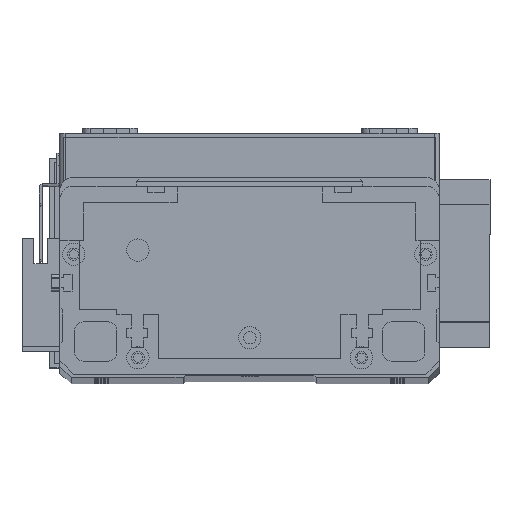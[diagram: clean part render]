
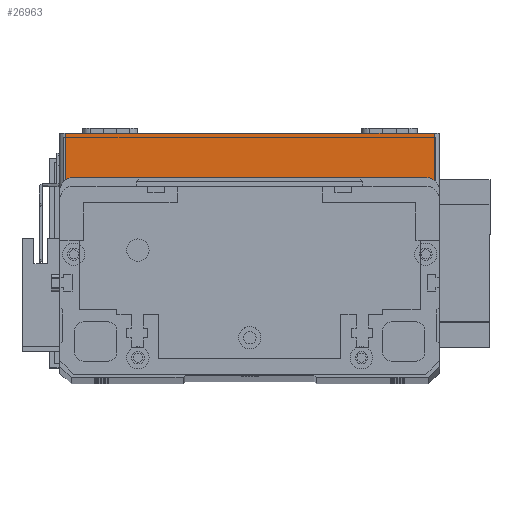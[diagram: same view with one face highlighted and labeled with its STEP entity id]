
A CAD part, top view. The second image highlights one B-rep face of the part: STEP entity #26963.
In plain terms, the highlighted planar face has unit normal (0, 0, 1) as drawn and (0, -1, 0) by its records, which use the part's own axes.
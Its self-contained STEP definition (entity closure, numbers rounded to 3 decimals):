
#280 = FACE_OUTER_BOUND ( 'NONE', #18588, .T. ) ;
#331 = DIRECTION ( 'NONE',  ( 1., 0., 0. ) ) ;
#2619 = CARTESIAN_POINT ( 'NONE',  ( 0., 0., 19.5 ) ) ;
#2716 = DIRECTION ( 'NONE',  ( 1., 0., 0. ) ) ;
#3793 = LINE ( 'NONE', #8071, #25795 ) ;
#3805 = ORIENTED_EDGE ( 'NONE', *, *, #24596, .F. ) ;
#4242 = DIRECTION ( 'NONE',  ( 0., 0., 1. ) ) ;
#4820 = CARTESIAN_POINT ( 'NONE',  ( 2., 0., 0. ) ) ;
#5652 = VERTEX_POINT ( 'NONE', #19278 ) ;
#6965 = EDGE_CURVE ( 'NONE', #14455, #20221, #3793, .T. ) ;
#7272 = CARTESIAN_POINT ( 'NONE',  ( 2., 0., 19.5 ) ) ;
#7984 = DIRECTION ( 'NONE',  ( 0., 0., -1. ) ) ;
#8071 = CARTESIAN_POINT ( 'NONE',  ( 2., 0., 19.5 ) ) ;
#10585 = ORIENTED_EDGE ( 'NONE', *, *, #6965, .T. ) ;
#10992 = CARTESIAN_POINT ( 'NONE',  ( 134., 0., 19.5 ) ) ;
#11834 = CARTESIAN_POINT ( 'NONE',  ( 0., 0., 0. ) ) ;
#12713 = EDGE_CURVE ( 'NONE', #20221, #5652, #27086, .T. ) ;
#13162 = LINE ( 'NONE', #2619, #24497 ) ;
#14455 = VERTEX_POINT ( 'NONE', #7272 ) ;
#15529 = CARTESIAN_POINT ( 'NONE',  ( 0., 0., 19.5 ) ) ;
#16544 = CARTESIAN_POINT ( 'NONE',  ( 134., 0., 19.5 ) ) ;
#17486 = AXIS2_PLACEMENT_3D ( 'NONE', #15529, #17816, #4242 ) ;
#17585 = VECTOR ( 'NONE', #27863, 1000. ) ;
#17712 = PLANE ( 'NONE',  #17486 ) ;
#17816 = DIRECTION ( 'NONE',  ( 0., 1., 0. ) ) ;
#18588 = EDGE_LOOP ( 'NONE', ( #3805, #10585, #26989, #27216 ) ) ;
#19278 = CARTESIAN_POINT ( 'NONE',  ( 134., 0., 0. ) ) ;
#20221 = VERTEX_POINT ( 'NONE', #4820 ) ;
#21034 = VECTOR ( 'NONE', #2716, 1000. ) ;
#21443 = EDGE_CURVE ( 'NONE', #5652, #28324, #25048, .T. ) ;
#24497 = VECTOR ( 'NONE', #331, 1000. ) ;
#24596 = EDGE_CURVE ( 'NONE', #14455, #28324, #13162, .T. ) ;
#25048 = LINE ( 'NONE', #16544, #17585 ) ;
#25795 = VECTOR ( 'NONE', #7984, 1000. ) ;
#26963 = ADVANCED_FACE ( 'NONE', ( #280 ), #17712, .F. ) ;
#26989 = ORIENTED_EDGE ( 'NONE', *, *, #12713, .T. ) ;
#27086 = LINE ( 'NONE', #11834, #21034 ) ;
#27216 = ORIENTED_EDGE ( 'NONE', *, *, #21443, .T. ) ;
#27863 = DIRECTION ( 'NONE',  ( 0., 0., 1. ) ) ;
#28324 = VERTEX_POINT ( 'NONE', #10992 ) ;
